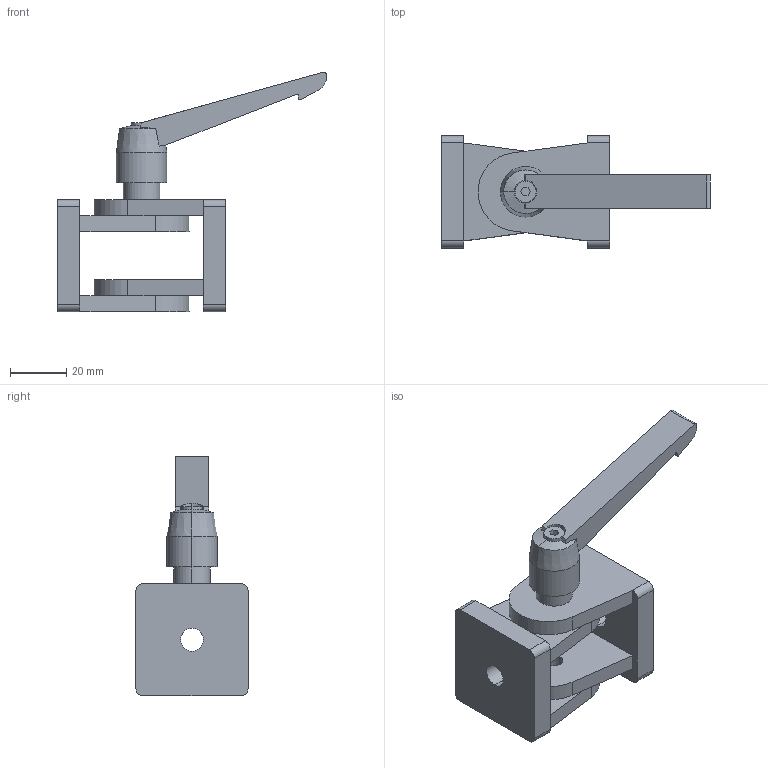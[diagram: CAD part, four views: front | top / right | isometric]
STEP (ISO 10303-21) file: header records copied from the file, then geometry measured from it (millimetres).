
FILE_DESCRIPTION (( 'STEP AP203' ), '1' );
FILE_NAME ('240KM40.STEP', '2018-07-03T14:47:12', ( '' ), ( '' ), 'SwSTEP 2.0', 'SolidWorks 2014', '' );
FILE_SCHEMA (( 'CONFIG_CONTROL_DESIGN' ));
Length unit declared in the file: millimetre
Products named in the file (1): 240KM40
Bounding box: 96 x 40 x 85.52 mm (x, y, z)
Volume: 60336.6 mm3; surface area: 23911.2 mm2
Topology: 3 solids, 3 shells, 89 faces, 224 edges, 146 vertices
Faces by surface type: plane 48, cylinder 37, cone 4
Entity records: 2779 total; most frequent: CARTESIAN_POINT 494, DIRECTION 470, ORIENTED_EDGE 448, EDGE_CURVE 224, AXIS2_PLACEMENT_3D 166, VERTEX_POINT 146, VECTOR 138, LINE 138
